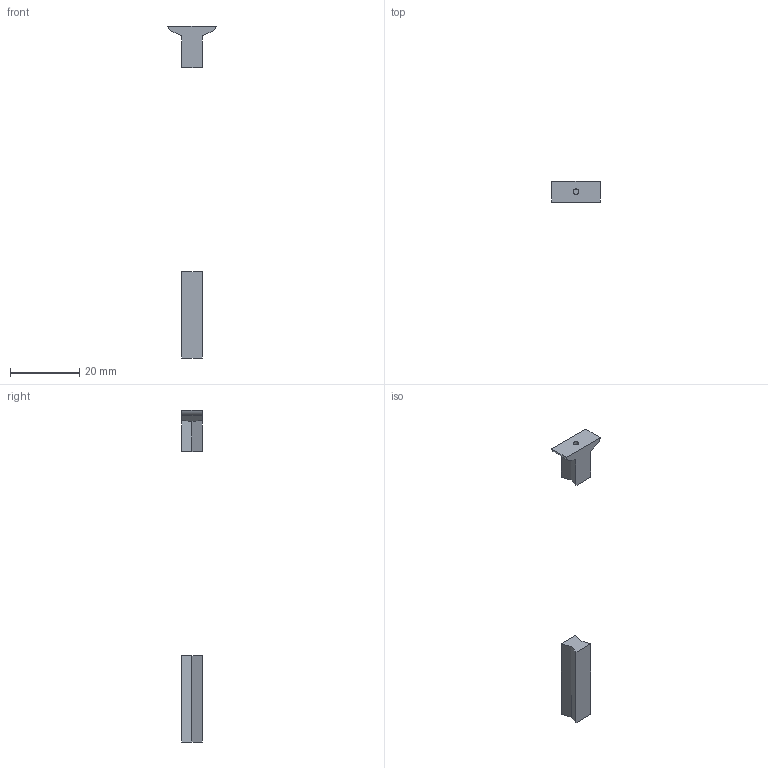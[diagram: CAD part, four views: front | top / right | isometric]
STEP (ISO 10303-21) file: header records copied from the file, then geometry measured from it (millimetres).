
FILE_DESCRIPTION(/* description */ ('STEP AP242','CAx-IF Rec.Pracs.---Representation and Presentation of Product Manufacturing Information (PMI)---4.0---2014-10-13','CAx-IF Rec.Pracs.---3D Tessellated Geometry---0.4---2014-09-14','2;1'),/* implementation_level */ '2;1');
FILE_NAME(/* name */ '645645dfa5ed027e9a81ca00',/* time_stamp */ '2023-05-06T12:19:43Z',/* author */ (''),/* organization */ (''),/* preprocessor_version */ 'ST-DEVELOPER v19.4',/* originating_system */ ' ',/* authorisation */ ' ');
FILE_SCHEMA (('AP242_MANAGED_MODEL_BASED_3D_ENGINEERING_MIM_LF { 1 0 10303 442 1 1 4 }'));
Length unit declared in the file: metre
Products named in the file (2): shim-b; shim
Bounding box: 14 x 6 x 96 mm (x, y, z)
Volume: 1207.7 mm3; surface area: 1170.2 mm2
Topology: 2 solids, 2 shells, 22 faces, 51 edges, 34 vertices
Faces by surface type: plane 19, cylinder 3
Full cylindrical faces by diameter (mm): 1.6 x1
Entity records: 663 total; most frequent: CARTESIAN_POINT 108, DIRECTION 104, ORIENTED_EDGE 100, EDGE_CURVE 50, LINE 44, VECTOR 44, VERTEX_POINT 34, AXIS2_PLACEMENT_3D 30
